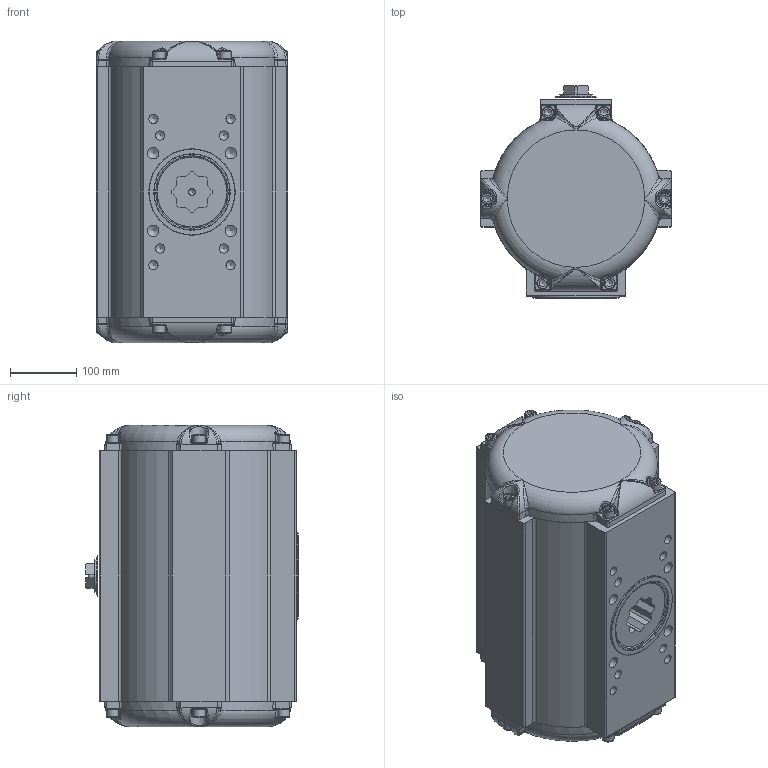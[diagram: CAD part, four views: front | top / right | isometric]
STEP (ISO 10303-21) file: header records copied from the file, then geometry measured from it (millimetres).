
FILE_DESCRIPTION((''),'2;1');
FILE_NAME('Z:\DOKUMENTATION ANTRIEBSPROGRAMM\Antriebe (neu)\BR16_SAD_SAF_90°\STEP-Dateien\43\SAD_43_BR16.stp','2017-06-27T09:21:13',('vmi'),(''),'Autodesk Inventor 2013','Autodesk Inventor 2013','');
FILE_SCHEMA(('AUTOMOTIVE_DESIGN { 1 0 10303 214 1 1 1 1 }'));
Length unit declared in the file: millimetre
Products named in the file (1): ENG-084105_Shrinkwrap_1
Bounding box: 288 x 319 x 453 mm (x, y, z)
Surface area: 748389.5 mm2 (no closed solid volume)
Topology: 0 solids, 27 shells, 558 faces, 1841 edges, 1213 vertices
Faces by surface type: plane 206, cylinder 147, bspline 110, cone 58, torus 37
Full cylindrical faces by diameter (mm): 4.134 x4, 4.917 x5, 8 x1, 8.376 x2, 13.835 x8, 17.294 x4, 18 x12, 18.631 x2, 37 x1, 49.6 x1, 114 x1, 130 x1, 236 x1
Entity records: 25415 total; most frequent: CARTESIAN_POINT 10702, ORIENTED_EDGE 2731, DIRECTION 2617, EDGE_CURVE 1682, VERTEX_POINT 1167, AXIS2_PLACEMENT_3D 1029, EDGE_LOOP 711, VECTOR 559
